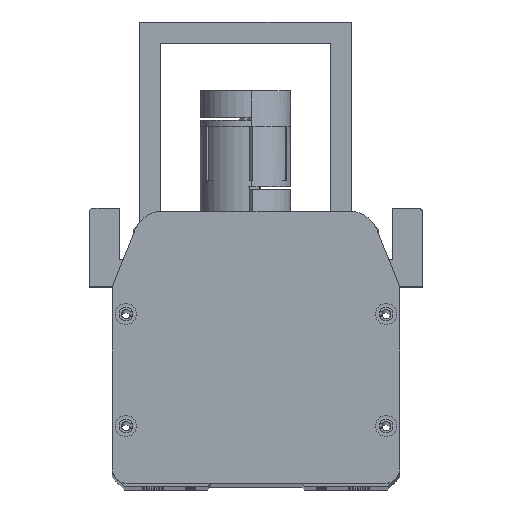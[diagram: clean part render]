
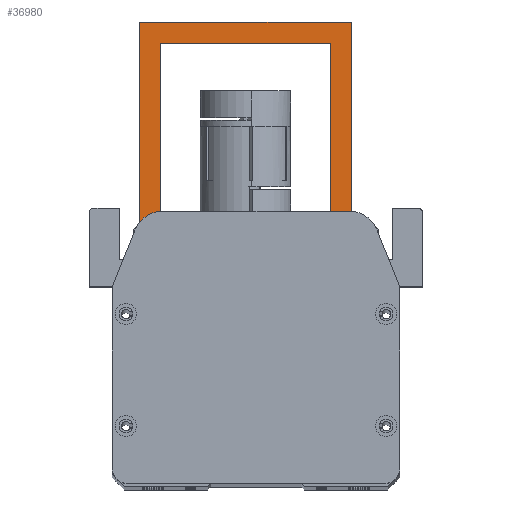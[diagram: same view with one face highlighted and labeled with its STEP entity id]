
A CAD part, top view. The second image highlights one B-rep face of the part: STEP entity #36980.
In plain terms, the highlighted planar face has unit normal (0, 0, 1) as drawn and (0, 0, -1) by its records, which use the part's own axes.
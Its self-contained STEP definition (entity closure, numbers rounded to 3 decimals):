
#917 = VERTEX_POINT ( 'NONE', #39056 ) ;
#1427 = EDGE_CURVE ( 'NONE', #14004, #17222, #49803, .T. ) ;
#1759 = EDGE_CURVE ( 'NONE', #53730, #31629, #39082, .T. ) ;
#1811 = CARTESIAN_POINT ( 'NONE',  ( 28., -28., 0. ) ) ;
#2702 = EDGE_LOOP ( 'NONE', ( #33684, #33100, #11050, #42834 ) ) ;
#2857 = CARTESIAN_POINT ( 'NONE',  ( 35., 35., 0. ) ) ;
#3409 = VERTEX_POINT ( 'NONE', #23043 ) ;
#3413 = VERTEX_POINT ( 'NONE', #27301 ) ;
#5404 = EDGE_CURVE ( 'NONE', #31629, #3409, #8163, .T. ) ;
#6702 = CARTESIAN_POINT ( 'NONE',  ( -35., -35., 0. ) ) ;
#7571 = DIRECTION ( 'NONE',  ( 0., 1., 0. ) ) ;
#8163 = LINE ( 'NONE', #23007, #42120 ) ;
#10923 = AXIS2_PLACEMENT_3D ( 'NONE', #37618, #54787, #29268 ) ;
#10940 = DIRECTION ( 'NONE',  ( 1., 0., 0. ) ) ;
#11050 = ORIENTED_EDGE ( 'NONE', *, *, #1427, .F. ) ;
#11878 = CARTESIAN_POINT ( 'NONE',  ( -35., 35., 0. ) ) ;
#12219 = ORIENTED_EDGE ( 'NONE', *, *, #54094, .T. ) ;
#14004 = VERTEX_POINT ( 'NONE', #11878 ) ;
#14647 = DIRECTION ( 'NONE',  ( 0., 1., 0. ) ) ;
#14894 = LINE ( 'NONE', #23299, #47537 ) ;
#15699 = DIRECTION ( 'NONE',  ( -1., 0., 0. ) ) ;
#15820 = VECTOR ( 'NONE', #50781, 1000. ) ;
#17218 = ORIENTED_EDGE ( 'NONE', *, *, #5404, .T. ) ;
#17222 = VERTEX_POINT ( 'NONE', #19800 ) ;
#18632 = VERTEX_POINT ( 'NONE', #2857 ) ;
#19800 = CARTESIAN_POINT ( 'NONE',  ( -35., -35., 0. ) ) ;
#22023 = LINE ( 'NONE', #37275, #41990 ) ;
#23007 = CARTESIAN_POINT ( 'NONE',  ( -28., 28., 0. ) ) ;
#23043 = CARTESIAN_POINT ( 'NONE',  ( -28., 28., 0. ) ) ;
#23299 = CARTESIAN_POINT ( 'NONE',  ( -28., -28., 0. ) ) ;
#23793 = EDGE_LOOP ( 'NONE', ( #27580, #41455, #17218, #12219 ) ) ;
#24123 = FACE_BOUND ( 'NONE', #23793, .T. ) ;
#24993 = PLANE ( 'NONE',  #10923 ) ;
#26434 = VECTOR ( 'NONE', #14647, 1000. ) ;
#27301 = CARTESIAN_POINT ( 'NONE',  ( -28., -28., 0. ) ) ;
#27578 = DIRECTION ( 'NONE',  ( 1., 0., 0. ) ) ;
#27580 = ORIENTED_EDGE ( 'NONE', *, *, #50524, .T. ) ;
#29268 = DIRECTION ( 'NONE',  ( -1., 0., 0. ) ) ;
#30827 = VECTOR ( 'NONE', #10940, 1000. ) ;
#31629 = VERTEX_POINT ( 'NONE', #42045 ) ;
#32097 = EDGE_CURVE ( 'NONE', #917, #18632, #22023, .T. ) ;
#32151 = LINE ( 'NONE', #6702, #30827 ) ;
#33100 = ORIENTED_EDGE ( 'NONE', *, *, #36175, .F. ) ;
#33684 = ORIENTED_EDGE ( 'NONE', *, *, #32097, .F. ) ;
#36175 = EDGE_CURVE ( 'NONE', #17222, #917, #32151, .T. ) ;
#36980 = ADVANCED_FACE ( 'NONE', ( #54125, #24123 ), #24993, .T. ) ;
#37275 = CARTESIAN_POINT ( 'NONE',  ( 35., -35., 0. ) ) ;
#37618 = CARTESIAN_POINT ( 'NONE',  ( 0., 0., 0. ) ) ;
#38863 = DIRECTION ( 'NONE',  ( 0., -1., 0. ) ) ;
#39056 = CARTESIAN_POINT ( 'NONE',  ( 35., -35., 0. ) ) ;
#39082 = LINE ( 'NONE', #1811, #26434 ) ;
#41455 = ORIENTED_EDGE ( 'NONE', *, *, #1759, .T. ) ;
#41990 = VECTOR ( 'NONE', #7571, 1000. ) ;
#42045 = CARTESIAN_POINT ( 'NONE',  ( 28., 28., 0. ) ) ;
#42120 = VECTOR ( 'NONE', #48556, 1000. ) ;
#42182 = CARTESIAN_POINT ( 'NONE',  ( -35., -35., 0. ) ) ;
#42834 = ORIENTED_EDGE ( 'NONE', *, *, #48517, .F. ) ;
#43211 = CARTESIAN_POINT ( 'NONE',  ( 28., -28., 0. ) ) ;
#44585 = LINE ( 'NONE', #53874, #54581 ) ;
#45169 = VECTOR ( 'NONE', #38863, 1000. ) ;
#46485 = LINE ( 'NONE', #51583, #45169 ) ;
#47537 = VECTOR ( 'NONE', #27578, 1000. ) ;
#48517 = EDGE_CURVE ( 'NONE', #18632, #14004, #44585, .T. ) ;
#48556 = DIRECTION ( 'NONE',  ( -1., 0., 0. ) ) ;
#49803 = LINE ( 'NONE', #42182, #15820 ) ;
#50524 = EDGE_CURVE ( 'NONE', #3413, #53730, #14894, .T. ) ;
#50781 = DIRECTION ( 'NONE',  ( 0., -1., 0. ) ) ;
#51583 = CARTESIAN_POINT ( 'NONE',  ( -28., -28., 0. ) ) ;
#53730 = VERTEX_POINT ( 'NONE', #43211 ) ;
#53874 = CARTESIAN_POINT ( 'NONE',  ( -35., 35., 0. ) ) ;
#54094 = EDGE_CURVE ( 'NONE', #3409, #3413, #46485, .T. ) ;
#54125 = FACE_OUTER_BOUND ( 'NONE', #2702, .T. ) ;
#54581 = VECTOR ( 'NONE', #15699, 1000. ) ;
#54787 = DIRECTION ( 'NONE',  ( 0., 0., -1. ) ) ;
